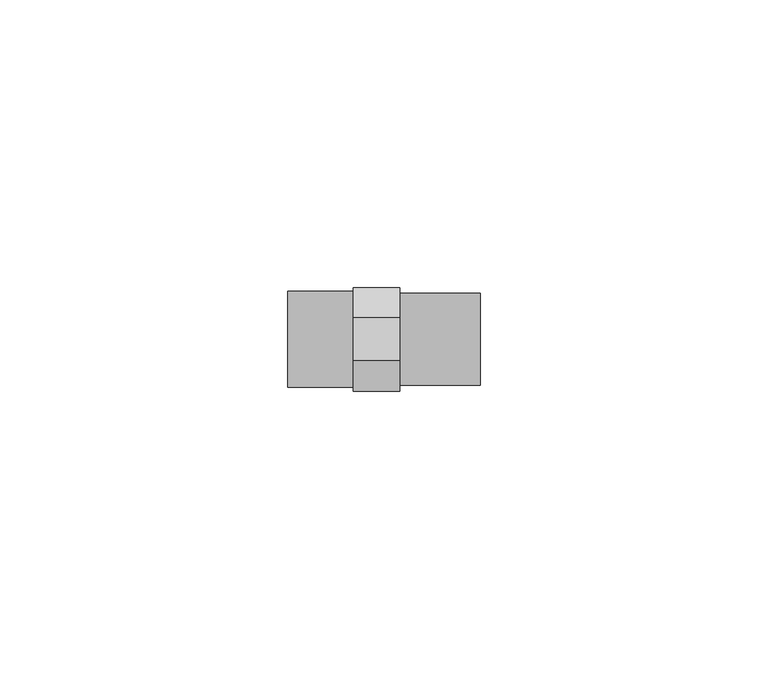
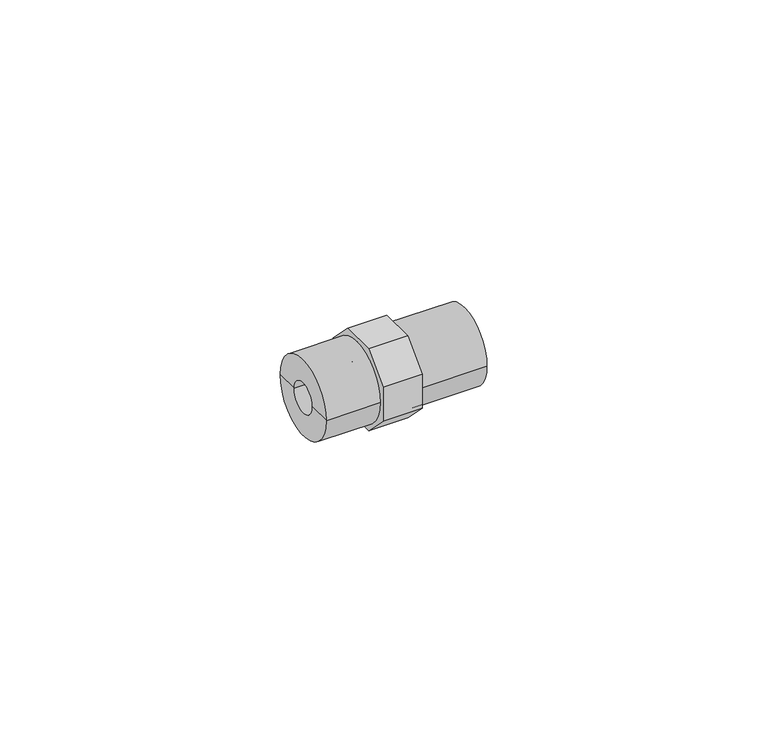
"""IFC4 building model written with IfcOpenShell, lengths in millimetres: pipe fitting geometry, Durapipe_PipeFitting_PVC_MaleThreadedAdaptors : 16 x 12 x G3⁄8."""

from ifc_helpers import new_model, si_unit, point, frame, origin, origin_2d, place, context, project, spatial, polyline, circle_curve, trimmed, segment, composite_curve, outline, extrude, source, transform, mapped, element, save
from ifc_brep_helpers import plane_surface, cylinder_surface, revolved_surface, advanced_brep


def pipe_fitting_f9a5b86b(model_context):
    return source(origin(), model_context, "Body", "SolidModel", [
        extrude(outline(polyline([(9.0, 3.7279221), (9.0, -3.7279221), (3.7279221, -9.0), (-3.7279221, -9.0), (-9.0, -3.7279221), (-9.0, 3.7279221), (-3.7279221, 9.0), (3.7279221, 9.0), (9.0, 3.7279221)]), holes=[composite_curve([segment(trimmed(circle_curve(origin_2d(), 3.3), [point((3.3, 0.0))], [point((-3.3, 0.0))], True, "CARTESIAN"), True, "CONTINUOUS"), segment(trimmed(circle_curve(origin_2d(), 3.3), [point((-3.3, 0.0))], [point((3.3, 0.0))], True, "CARTESIAN"), True, "CONTINUOUS")], self_intersect=False)]), frame((-8.1, 0.0, 0.0), z_axis=(1.0, 0.0, 0.0), x_axis=(0.0, 1.0, 0.0)), (0.0, 0.0, 1.0), 8.1),
        advanced_brep(
        [(0.0, -8.0, 0.0), (0.0, 8.0, 0.0), (14.0, 8.0, 0.0), (14.0, -8.0, 0.0), (14.0, 6.0, 0.0), (14.0, -6.0, 0.0), (0.0, 0.0, 0.0), (1.5, 6.0, 0.0), (1.5, -6.0, 0.0), (1.5, 0.0, 0.0)],
        [
            (0, 1, circle_curve(frame((0.0, 0.0, 0.0), z_axis=(1.0, 0.0, 0.0), x_axis=(0.0, 1.0, 0.0)), 8.0)),
            (1, 2),
            (2, 3, circle_curve(frame((14.0, 0.0, 0.0), z_axis=(-1.0, 0.0, 0.0), x_axis=(0.0, 1.0, 0.0)), 8.0)),
            (3, 0),
            (1, 0, circle_curve(frame((0.0, 0.0, 0.0), z_axis=(1.0, 0.0, 0.0), x_axis=(0.0, 1.0, 0.0)), 8.0)),
            (3, 2, circle_curve(frame((14.0, 0.0, 0.0), z_axis=(-1.0, 0.0, 0.0), x_axis=(0.0, 1.0, 0.0)), 8.0)),
            (2, 4),
            (4, 5, circle_curve(frame((14.0, 0.0, 0.0), z_axis=(-1.0, 0.0, 0.0), x_axis=(0.0, 1.0, 0.0)), 6.0)),
            (5, 3),
            (5, 4, circle_curve(frame((14.0, 0.0, 0.0), z_axis=(-1.0, 0.0, 0.0), x_axis=(0.0, 1.0, 0.0)), 6.0)),
            (0, 6),
            (6, 1),
            (7, 8, circle_curve(frame((1.5, 0.0, 0.0), z_axis=(-1.0, 0.0, 0.0), x_axis=(0.0, 1.0, 0.0)), 6.0)),
            (8, 5),
            (4, 7),
            (8, 7, circle_curve(frame((1.5, 0.0, 0.0), z_axis=(-1.0, 0.0, 0.0), x_axis=(0.0, 1.0, 0.0)), 6.0)),
            (7, 9),
            (9, 8),
        ],
        [
            cylinder_surface(frame((415.4572068, 0.0, 0.0), z_axis=(-1.0, 0.0, 0.0), x_axis=(0.0, 1.0, 0.0)), 8.0),
            plane_surface(frame((14.0, 0.0, 0.0), z_axis=(1.0, 0.0, 0.0), x_axis=(0.0, 1.0, 0.0))),
            plane_surface(frame((0.0, 0.0, 0.0), z_axis=(-1.0, 0.0, 0.0), x_axis=(0.0, 1.0, 0.0))),
            revolved_surface(polyline([(1.5, 6.0, 0.0), (14.0, 6.0, 0.0)]), (27.5575137, 0.0, 0.0), (-1.0, 0.0, 0.0)),
            plane_surface(frame((1.5, 0.0, 0.0), z_axis=(1.0, 0.0, 0.0), x_axis=(0.0, 1.0, 0.0))),
        ],
        [
            (0, [[1, 2, 3, 4]]),
            (0, [[-2, 5, -4, 6]]),
            (1, [[-3, 7, 8, 9]]),
            (1, [[-6, -9, 10, -7]]),
            (2, [[-1, 11, 12]]),
            (2, [[-5, -12, -11]]),
            (3, [[13, 14, -8, 15]]),
            (3, [[16, -15, -10, -14]]),
            (4, [[-13, 17, 18]]),
            (4, [[-16, -18, -17]]),
        ],
    ),
        advanced_brep(
        [(-8.1, -3.3, 0.0), (-8.1, 3.3, 0.0), (-19.5, 3.3, 0.0), (-19.5, -3.3, 0.0), (-8.1, -8.35, 0.0), (-8.1, 8.35, 0.0), (-19.5, -8.35, 0.0), (-19.5, 8.35, 0.0)],
        [
            (0, 1, circle_curve(frame((-8.1, 0.0, 0.0), z_axis=(1.0, 0.0, 0.0), x_axis=(0.0, 1.0, 0.0)), 3.3)),
            (1, 2),
            (2, 3, circle_curve(frame((-19.5, 0.0, 0.0), z_axis=(-1.0, 0.0, 0.0), x_axis=(0.0, 1.0, 0.0)), 3.3)),
            (3, 0),
            (1, 0, circle_curve(frame((-8.1, 0.0, 0.0), z_axis=(1.0, 0.0, 0.0), x_axis=(0.0, 1.0, 0.0)), 3.3)),
            (3, 2, circle_curve(frame((-19.5, 0.0, 0.0), z_axis=(-1.0, 0.0, 0.0), x_axis=(0.0, 1.0, 0.0)), 3.3)),
            (4, 5, circle_curve(frame((-8.1, 0.0, 0.0), z_axis=(1.0, 0.0, 0.0), x_axis=(0.0, 1.0, 0.0)), 8.35)),
            (5, 1),
            (0, 4),
            (5, 4, circle_curve(frame((-8.1, 0.0, 0.0), z_axis=(1.0, 0.0, 0.0), x_axis=(0.0, 1.0, 0.0)), 8.35)),
            (6, 7, circle_curve(frame((-19.5, 0.0, 0.0), z_axis=(1.0, 0.0, 0.0), x_axis=(0.0, 1.0, 0.0)), 8.35)),
            (7, 5),
            (4, 6),
            (7, 6, circle_curve(frame((-19.5, 0.0, 0.0), z_axis=(1.0, 0.0, 0.0), x_axis=(0.0, 1.0, 0.0)), 8.35)),
            (2, 7),
            (6, 3),
        ],
        [
            revolved_surface(polyline([(-19.5, 3.3, 0.0), (-8.100000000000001, 3.3, 0.0)]), (-34.5, 0.0, 0.0), (-1.0, 0.0, 0.0)),
            plane_surface(frame((-8.1, 0.0, 0.0), z_axis=(1.0, 0.0, 0.0), x_axis=(0.0, 1.0, 0.0))),
            cylinder_surface(frame((-34.5, 0.0, 0.0), z_axis=(-1.0, 0.0, 0.0), x_axis=(0.0, 1.0, 0.0)), 8.35),
            plane_surface(frame((-19.5, 0.0, 0.0), z_axis=(-1.0, 0.0, 0.0), x_axis=(0.0, 1.0, 0.0))),
        ],
        [
            (0, [[1, 2, 3, 4]]),
            (0, [[5, -4, 6, -2]]),
            (1, [[7, 8, -1, 9]]),
            (1, [[10, -9, -5, -8]]),
            (2, [[11, 12, -7, 13]]),
            (2, [[14, -13, -10, -12]]),
            (3, [[-3, 15, -11, 16]]),
            (3, [[-6, -16, -14, -15]]),
        ],
    ),
    ])


if __name__ == "__main__":
    model = new_model("IFC4")
    model_context = context("Model", 3, world=origin())
    ifc_project = project(units=[si_unit("LENGTHUNIT", "METRE", prefix="MILLI")], contexts=[model_context])
    site = spatial("IfcSite", under=ifc_project)
    building = spatial("IfcBuilding", under=site)
    placement = place(None, origin())
    pipe_fitting_shape = pipe_fitting_f9a5b86b(model_context)
    element("IfcPipeFitting", 1, ObjectType="Durapipe_PipeFitting_PVC_MaleThreadedAdaptors : 16 x 12 x G3⁄8", at=placement, inside=building, context=model_context, shape_type="MappedRepresentation", body=[
        mapped(pipe_fitting_shape, transform((0.0, 0.0, 0.0), x_axis=(1.0, 0.0, 0.0), y_axis=(0.0, 1.0, 0.0), z_axis=(0.0, 0.0, 1.0))),
    ])
    save(model, "model.ifc")
